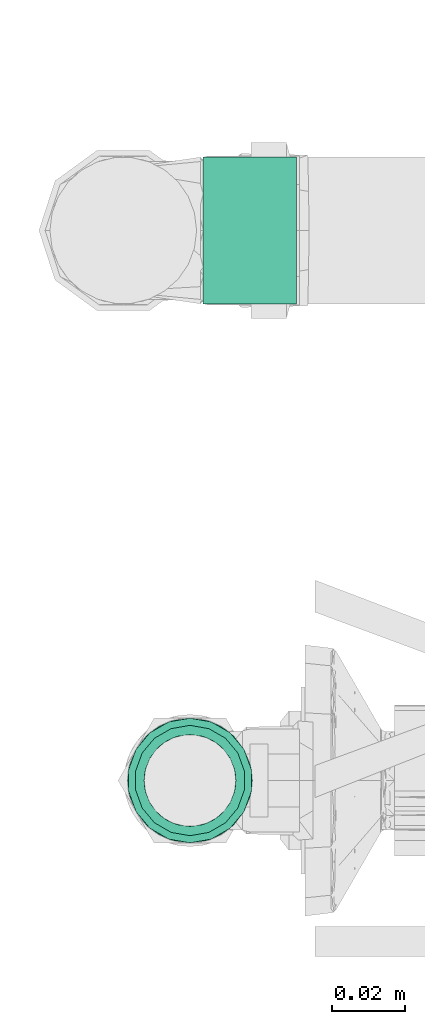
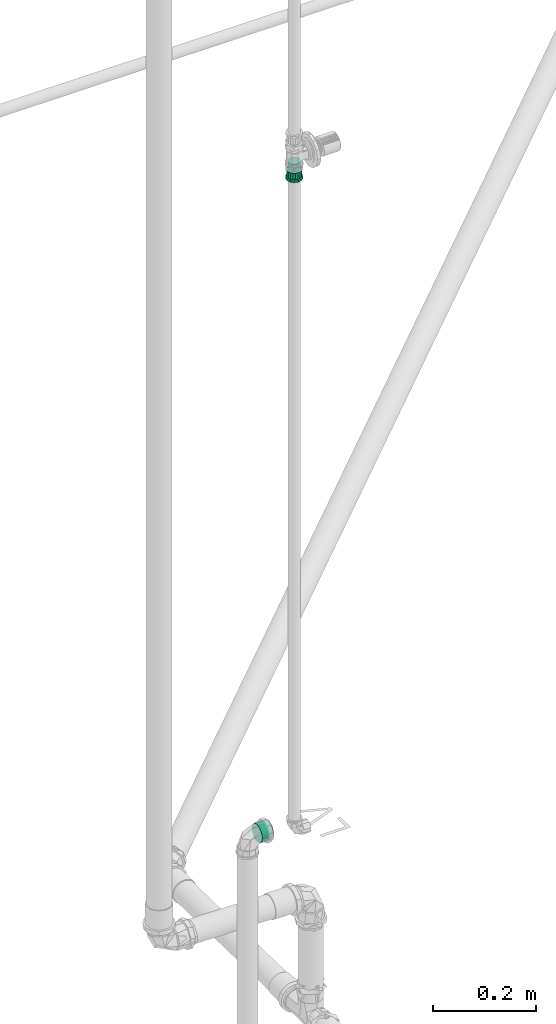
# One storey, part 394 of 589: 1 flow fitting, 1 flow segment.
"""IFC2X3 building model written with IfcOpenShell, lengths in millimetres."""

import ifcopenshell
import ifcopenshell.guid

model = None  # the IFC model being written
_history = None  # IfcOwnerHistory: only IFC2X3 demands one
_inside = {}  # id of a spatial element -> (the spatial element, [elements in it])
_under = {}  # id of a project, library or spatial element -> (it, [spatial elements below it])
_declared = {}  # id of a project -> (the project, [libraries it declares])
_typed = {}  # id of a type object -> (the type object, [elements of that type])
_made_of = {}  # id of a material, layer set ... -> (it, [elements and type objects made of it])


def new_model(schema):
    """Start an empty IFC model of exactly this schema.

    Asked for "IFC4X3", IfcOpenShell would pick the latest addendum, in which some entities
    have other attributes; the version numbers below select the first issue.
    IFC2X3 requires an IfcOwnerHistory on every rooted entity: one is made here for all.
    """
    global model, _history
    if schema == "IFC4X3":
        model = ifcopenshell.file(schema_version=(4, 3, 0, 0))
    else:
        model = ifcopenshell.file(schema=schema)
    _inside.clear()
    _under.clear()
    _declared.clear()
    _typed.clear()
    _made_of.clear()
    _history = None
    if model.schema == "IFC2X3":
        org = make("IfcOrganization", Name="unknown")
        user = make(
            "IfcPersonAndOrganization",
            ThePerson=make("IfcPerson", FamilyName="unknown"),
            TheOrganization=org,
        )
        app = make(
            "IfcApplication",
            ApplicationDeveloper=org,
            Version="unknown",
            ApplicationFullName="unknown",
            ApplicationIdentifier="unknown",
        )
        _history = make(
            "IfcOwnerHistory",
            OwningUser=user,
            OwningApplication=app,
            ChangeAction="ADDED",
            CreationDate=0,
        )
    return model


def make(cls, **values):
    """One entity of the class cls with the attributes given. An attribute that is None is left unset."""
    return model.create_entity(
        cls, **{name: value for name, value in values.items() if value is not None}
    )


def entity(cls, *values):
    """Any entity or typed value of the class cls, its attributes in the order of the schema. None: left unset."""
    e = model.create_entity(cls)
    for i, value in enumerate(values):
        if value is not None:
            e[i] = value
    return e


def rooted(cls, **values):
    """An entity with a GlobalId (a new one), such as an element, a storey or a relation."""
    return make(cls, GlobalId=ifcopenshell.guid.new(), OwnerHistory=_history, **values)


def si_unit(unit_type, name, prefix=None):
    """IfcSIUnit, for example si_unit("LENGTHUNIT", "METRE", prefix="MILLI")."""
    return make("IfcSIUnit", UnitType=unit_type, Prefix=prefix, Name=name)


def converted_unit(unit_type, name, factor, base, dimensions=None, offset=None):
    """IfcConversionBasedUnit, such as the inch: factor (a typed value) times the base unit."""
    return make(
        "IfcConversionBasedUnit"
        if offset is None
        else "IfcConversionBasedUnitWithOffset",
        ConversionOffset=offset,
        Dimensions=None
        if dimensions is None
        else entity("IfcDimensionalExponents", *dimensions),
        UnitType=unit_type,
        Name=name,
        ConversionFactor=make(
            "IfcMeasureWithUnit", ValueComponent=factor, UnitComponent=base
        ),
    )


def derived_unit(unit_type, elements):
    """IfcDerivedUnit: a product of units, each with its exponent."""
    return make(
        "IfcDerivedUnit",
        Elements=[
            make("IfcDerivedUnitElement", Unit=unit, Exponent=power)
            for unit, power in elements
        ],
        UnitType=unit_type,
    )


def assignment(units):
    """IfcUnitAssignment: the units of a project."""
    return None if units is None else make("IfcUnitAssignment", Units=units)


def point(xyz):
    """IfcCartesianPoint."""
    return None if xyz is None else make("IfcCartesianPoint", Coordinates=xyz)


def direction(xyz):
    """IfcDirection."""
    return None if xyz is None else make("IfcDirection", DirectionRatios=xyz)


def frame(location, z_axis=None, x_axis=None):
    """IfcAxis2Placement3D, a coordinate frame: its origin and axes. An axis left out is left unset."""
    return make(
        "IfcAxis2Placement3D",
        Location=point(location),
        Axis=direction(z_axis),
        RefDirection=direction(x_axis),
    )


def frame_2d(location, x_axis=None):
    """IfcAxis2Placement2D, a coordinate frame in the plane: its origin and x axis."""
    return make(
        "IfcAxis2Placement2D", Location=point(location), RefDirection=direction(x_axis)
    )


def origin():
    """The frame at (0, 0, 0) with its axes left unset."""
    return frame((0.0, 0.0, 0.0))


def place(relative_to, where):
    """IfcLocalPlacement: puts the frame where relative to a parent placement (None: the world)."""
    return make(
        "IfcLocalPlacement", PlacementRelTo=relative_to, RelativePlacement=where
    )


def context(
    kind, dimensions, precision=None, world=None, true_north=None, identifier=None
):
    """IfcGeometricRepresentationContext, for example the 3D "Model" context."""
    return make(
        "IfcGeometricRepresentationContext",
        ContextIdentifier=identifier,
        ContextType=kind,
        CoordinateSpaceDimension=dimensions,
        Precision=precision,
        WorldCoordinateSystem=world,
        TrueNorth=true_north,
    )


def subcontext(parent, identifier, kind, view, scale=None):
    """IfcGeometricRepresentationSubContext, for example "Body" below "Model"."""
    return make(
        "IfcGeometricRepresentationSubContext",
        ContextIdentifier=identifier,
        ContextType=kind,
        ParentContext=parent,
        TargetScale=scale,
        TargetView=view,
    )


def project(units=None, contexts=None):
    """IfcProject with its units and contexts."""
    return rooted(
        "IfcProject",
        Name="project",
        RepresentationContexts=contexts,
        UnitsInContext=assignment(units),
    )


def spatial(cls, under=None, at=None, **own):
    """A site, building, storey or space (cls), placed at a placement, below another one or the project."""
    s = rooted(cls, ObjectPlacement=at, **own)
    if under is not None:
        _under.setdefault(under.id(), (under, []))[1].append(s)
    return s


def profile(cls, at=None, kind="AREA", **sizes):
    """A parametric profile (cls). Its sizes go by their IFC names, for example OverallWidth=200.0."""
    return make(cls, ProfileType=kind, Position=at, **sizes)


def circle(**sizes):
    """IfcCircleProfileDef."""
    return profile("IfcCircleProfileDef", **sizes)


def extrude(swept, where, along, depth):
    """IfcExtrudedAreaSolid: the profile swept, set in the frame where, extruded along a direction by depth."""
    return make(
        "IfcExtrudedAreaSolid",
        SweptArea=swept,
        Position=where,
        ExtrudedDirection=direction(along),
        Depth=depth,
    )


def faces_of(points, faces, orient=None, outer=None):
    """IfcFace entities. A face is a list of loops; a loop is a list of indices into points, from 0.

    orient and outer hold one flag for each loop. By default every Orientation is true, the
    first loop of a face is its IfcFaceOuterBound and the others are IfcFaceBound.
    """
    made = []
    for i, loops in enumerate(faces):
        bounds = []
        for j, loop in enumerate(loops):
            is_outer = j == 0 if outer is None else outer[i][j]
            bounds.append(
                make(
                    "IfcFaceOuterBound" if is_outer else "IfcFaceBound",
                    Bound=make("IfcPolyLoop", Polygon=[points[k] for k in loop]),
                    Orientation=True if orient is None else orient[i][j],
                )
            )
        made.append(make("IfcFace", Bounds=bounds))
    return made


def faceted_brep(points, faces, orient=None, outer=None, voids=None):
    """IfcFacetedBrep: a solid bounded by flat faces; with voids (closed shells), ...WithVoids."""
    shared = [point(p) for p in points]
    hull = make("IfcClosedShell", CfsFaces=faces_of(shared, faces, orient, outer))
    if voids is None:
        return make("IfcFacetedBrep", Outer=hull)
    return make(
        "IfcFacetedBrepWithVoids",
        Outer=hull,
        Voids=[
            make(cls, CfsFaces=faces_of(shared, fs, o, b)) for cls, fs, o, b in voids
        ],
    )


def shape(context_of_items, identifier, shape_type, items):
    """IfcShapeRepresentation: the items that make up one representation, for example the "Body"."""
    return make(
        "IfcShapeRepresentation",
        ContextOfItems=context_of_items,
        RepresentationIdentifier=identifier,
        RepresentationType=shape_type,
        Items=items,
    )


def source(mapping_origin, context_of_items, identifier, shape_type, items):
    """IfcRepresentationMap: a shape defined once, which mapped items show again and again."""
    return make(
        "IfcRepresentationMap",
        MappingOrigin=mapping_origin,
        MappedRepresentation=shape(context_of_items, identifier, shape_type, items),
    )


def transform(
    local_origin,
    x_axis=None,
    y_axis=None,
    z_axis=None,
    scale=None,
    scale2=None,
    scale3=None,
    uniform=True,
):
    """IfcCartesianTransformationOperator3D, or its non-uniform kind. x_axis, y_axis, z_axis: its Axis1, 2, 3."""
    if uniform:
        return make(
            "IfcCartesianTransformationOperator3D",
            Axis1=direction(x_axis),
            Axis2=direction(y_axis),
            LocalOrigin=point(local_origin),
            Scale=scale,
            Axis3=direction(z_axis),
        )
    return make(
        "IfcCartesianTransformationOperator3DnonUniform",
        Axis1=direction(x_axis),
        Axis2=direction(y_axis),
        LocalOrigin=point(local_origin),
        Scale=scale,
        Axis3=direction(z_axis),
        Scale2=scale2,
        Scale3=scale3,
    )


def mapped(mapping_source, mapping_target):
    """IfcMappedItem: shows the shape of a source again, moved by a transform."""
    return make(
        "IfcMappedItem", MappingSource=mapping_source, MappingTarget=mapping_target
    )


def material(Name=None, Category=None):
    """IfcMaterial."""
    return make("IfcMaterial", Name=Name, Category=Category)


def made_of(thing, what):
    """Note that an element or type object is made of a material, layer set ...; save() writes the relation."""
    if what is not None:
        _made_of.setdefault(what.id(), (what, []))[1].append(thing)
    return thing


def type_object(cls, material=None, **own):
    """A type object (cls), such as IfcWallType, which elements share."""
    return made_of(rooted(cls, **own), material)


def type_shapes(of_type, sources):
    """Give a type object the sources (RepresentationMaps) that its elements show as mapped items."""
    of_type.RepresentationMaps = sources


def element(
    cls,
    number,
    at=None,
    inside=None,
    cuts=None,
    type_object=None,
    material=None,
    context=None,
    identifier="Body",
    shape_type=None,
    held_by="IfcProductDefinitionShape",
    body=None,
    shapes=None,
    **own,
):
    """One element of the class cls, such as IfcWall. Its Tag is "e" and its number.

    at: its placement. inside: the storey or other place that contains it. cuts: it is an
    opening in that element (IfcRelVoidsElement). A single representation is given by context,
    identifier, shape_type and body (its items); several are given by shapes. held_by: the class
    of the entity that holds the representations. save() writes the other relations.
    """
    e = rooted(cls, Tag="e%d" % number, ObjectPlacement=at, **own)
    if body is not None:
        shapes = [shape(context, identifier, shape_type, body)]
    if shapes is not None:
        e.Representation = make(held_by, Representations=shapes)
    if inside is not None:
        _inside.setdefault(inside.id(), (inside, []))[1].append(e)
    if cuts is not None:
        rooted(
            "IfcRelVoidsElement", RelatingBuildingElement=cuts, RelatedOpeningElement=e
        )
    if type_object is not None:
        _typed.setdefault(type_object.id(), (type_object, []))[1].append(e)
    return made_of(e, material)


def aggregate(whole, parts):
    """IfcRelAggregates: a whole, such as a stair, and the parts it consists of."""
    return rooted("IfcRelAggregates", RelatingObject=whole, RelatedObjects=parts)


def save(model, path):
    """Write the relations noted so far, then the file.

    IfcRelAggregates (storeys below a building ...), IfcRelContainedInSpatialStructure (elements
    in a storey), IfcRelDefinesByType, IfcRelAssociatesMaterial and IfcRelDeclares: one each for
    every whole, place, type object, material and project.
    """
    for whole, parts in _under.values():
        aggregate(whole, parts)
    for where, things in _inside.values():
        rooted(
            "IfcRelContainedInSpatialStructure",
            RelatedElements=things,
            RelatingStructure=where,
        )
    for kind, things in _typed.values():
        rooted("IfcRelDefinesByType", RelatedObjects=things, RelatingType=kind)
    for what, things in _made_of.values():
        rooted("IfcRelAssociatesMaterial", RelatedObjects=things, RelatingMaterial=what)
    for by, libraries in _declared.values():
        rooted("IfcRelDeclares", RelatingContext=by, RelatedDefinitions=libraries)
    model.write(path)


model = new_model("IFC2X3")

# Units and contexts
model_context = context("Model", 3, precision=0.01, world=origin(), true_north=direction((6.123031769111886e-17, 1.0)))
body_context = subcontext(model_context, "Body", "Model", "MODEL_VIEW")
ifc_project = project(units=[si_unit("LENGTHUNIT", "METRE", prefix="MILLI"), si_unit("AREAUNIT", "SQUARE_METRE"), si_unit("VOLUMEUNIT", "CUBIC_METRE"), converted_unit("PLANEANGLEUNIT", "DEGREE", entity("IfcRatioMeasure", 0.017453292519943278), si_unit("PLANEANGLEUNIT", "RADIAN"), dimensions=[0, 0, 0, 0, 0, 0, 0]), si_unit("MASSUNIT", "GRAM", prefix="KILO"), derived_unit("MASSDENSITYUNIT", [(si_unit("MASSUNIT", "GRAM", prefix="KILO"), 1), (si_unit("LENGTHUNIT", "METRE"), -3)]), derived_unit("IONCONCENTRATIONUNIT", [(si_unit("MASSUNIT", "GRAM", prefix="KILO"), 1), (si_unit("LENGTHUNIT", "METRE"), -3)]), derived_unit("MOMENTOFINERTIAUNIT", [(si_unit("LENGTHUNIT", "METRE"), 4)]), si_unit("TIMEUNIT", "SECOND"), si_unit("FREQUENCYUNIT", "HERTZ"), si_unit("THERMODYNAMICTEMPERATUREUNIT", "DEGREE_CELSIUS"), derived_unit("THERMALTRANSMITTANCEUNIT", [(si_unit("MASSUNIT", "GRAM", prefix="KILO"), 1), (si_unit("THERMODYNAMICTEMPERATUREUNIT", "KELVIN"), -1), (si_unit("TIMEUNIT", "SECOND"), -3)]), derived_unit("THERMALCONDUCTANCEUNIT", [(si_unit("MASSUNIT", "GRAM", prefix="KILO"), 1), (si_unit("THERMODYNAMICTEMPERATUREUNIT", "KELVIN"), -1), (si_unit("TIMEUNIT", "SECOND"), -3), (si_unit("LENGTHUNIT", "METRE"), 1)]), derived_unit("VOLUMETRICFLOWRATEUNIT", [(si_unit("LENGTHUNIT", "METRE"), 3), (si_unit("TIMEUNIT", "SECOND"), -1)]), derived_unit("MASSFLOWRATEUNIT", [(si_unit("MASSUNIT", "GRAM", prefix="KILO"), 1), (si_unit("TIMEUNIT", "SECOND"), -1)]), derived_unit("ROTATIONALFREQUENCYUNIT", [(si_unit("TIMEUNIT", "SECOND"), -1)]), si_unit("ELECTRICCURRENTUNIT", "AMPERE"), si_unit("ELECTRICVOLTAGEUNIT", "VOLT"), si_unit("POWERUNIT", "WATT"), si_unit("FORCEUNIT", "NEWTON", prefix="KILO"), si_unit("ILLUMINANCEUNIT", "LUX"), si_unit("LUMINOUSFLUXUNIT", "LUMEN"), si_unit("LUMINOUSINTENSITYUNIT", "CANDELA"), derived_unit("USERDEFINED", [(si_unit("MASSUNIT", "GRAM", prefix="KILO"), -1), (si_unit("LENGTHUNIT", "METRE"), -2), (si_unit("TIMEUNIT", "SECOND"), 3), (si_unit("LUMINOUSFLUXUNIT", "LUMEN"), 1)]), derived_unit("USERDEFINED", [(si_unit("MASSUNIT", "GRAM", prefix="KILO"), 1), (si_unit("TIMEUNIT", "SECOND"), -3), (si_unit("LENGTHUNIT", "METRE"), 3), (si_unit("ELECTRICCURRENTUNIT", "AMPERE"), -2)]), derived_unit("SOUNDPOWERUNIT", [(si_unit("MASSUNIT", "GRAM", prefix="KILO"), 1), (si_unit("TIMEUNIT", "SECOND"), -3), (si_unit("LENGTHUNIT", "METRE"), 2)]), derived_unit("SOUNDPRESSUREUNIT", [(si_unit("MASSUNIT", "GRAM", prefix="KILO"), 1), (si_unit("LENGTHUNIT", "METRE"), -1), (si_unit("TIMEUNIT", "SECOND"), -2)]), derived_unit("LINEARVELOCITYUNIT", [(si_unit("LENGTHUNIT", "METRE"), 1), (si_unit("TIMEUNIT", "SECOND"), -1)]), si_unit("PRESSUREUNIT", "PASCAL"), derived_unit("USERDEFINED", [(si_unit("MASSUNIT", "GRAM", prefix="KILO"), 1), (si_unit("LENGTHUNIT", "METRE"), -2), (si_unit("TIMEUNIT", "SECOND"), -2)]), derived_unit("LINEARFORCEUNIT", [(si_unit("MASSUNIT", "GRAM", prefix="KILO"), 1), (si_unit("TIMEUNIT", "SECOND"), -2)]), derived_unit("PLANARFORCEUNIT", [(si_unit("MASSUNIT", "GRAM", prefix="KILO"), 1), (si_unit("LENGTHUNIT", "METRE"), -1), (si_unit("TIMEUNIT", "SECOND"), -2)]), derived_unit("SPECIFICHEATCAPACITYUNIT", [(si_unit("THERMODYNAMICTEMPERATUREUNIT", "KELVIN"), -1), (si_unit("LENGTHUNIT", "METRE"), 2), (si_unit("TIMEUNIT", "SECOND"), -2)]), derived_unit("HEATINGVALUEUNIT", [(si_unit("LENGTHUNIT", "METRE"), 2), (si_unit("TIMEUNIT", "SECOND"), -2)]), derived_unit("VAPORPERMEABILITYUNIT", [(si_unit("LENGTHUNIT", "METRE"), -1), (si_unit("TIMEUNIT", "SECOND"), 1)]), derived_unit("DYNAMICVISCOSITYUNIT", [(si_unit("MASSUNIT", "GRAM", prefix="KILO"), 1), (si_unit("TIMEUNIT", "SECOND"), -1), (si_unit("LENGTHUNIT", "METRE"), -1)]), derived_unit("THERMALEXPANSIONCOEFFICIENTUNIT", [(si_unit("THERMODYNAMICTEMPERATUREUNIT", "KELVIN"), -1)]), derived_unit("MODULUSOFELASTICITYUNIT", [(si_unit("MASSUNIT", "GRAM", prefix="KILO"), 1), (si_unit("LENGTHUNIT", "METRE"), -1), (si_unit("TIMEUNIT", "SECOND"), -2)]), derived_unit("ISOTHERMALMOISTURECAPACITYUNIT", [(si_unit("LENGTHUNIT", "METRE"), 3), (si_unit("MASSUNIT", "GRAM", prefix="KILO"), -1)]), derived_unit("MOISTUREDIFFUSIVITYUNIT", [(si_unit("TIMEUNIT", "SECOND"), -1), (si_unit("LENGTHUNIT", "METRE"), 2)])], contexts=[model_context])

# Site, building, storey
site_placement = place(None, origin())
site = spatial("IfcSite", under=ifc_project, at=site_placement, Name="Default", CompositionType="ELEMENT")
building_placement = place(site_placement, origin())
building = spatial("IfcBuilding", under=site, at=building_placement, CompositionType="ELEMENT")
storey_placement = place(building_placement, frame((0.0, 0.0, 100.0)))
storey = spatial("IfcBuildingStorey", under=building, at=storey_placement, Name="TÉRREO", CompositionType="ELEMENT", Elevation=100.0)

# Flow segment
pipe_segment_type = type_object("IfcPipeSegmentType", Name="Tipos de tubos:PVC Esgoto Série Normal", PredefinedType="NOTDEFINED")
flow_segment_placement = place(storey_placement, origin())
element("IfcFlowSegment", 1, at=flow_segment_placement, inside=storey, type_object=pipe_segment_type, Name="Tipos de tubos:PVC Esgoto Série Normal", ObjectType="Tipos de tubos:PVC Esgoto Série Normal", context=body_context, shape_type="SweptSolid", body=[
    extrude(circle(Radius=20.0, at=frame_2d((1.353583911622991e-13, 0.0), x_axis=(1.0, 0.0))), frame((4633.153225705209, -799.8765311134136, 500.0), z_axis=(1.0, 0.0, 0.0), x_axis=(0.0, -1.0, 0.0)), (0.0, 0.0, 1.0), 25.39999304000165),
])

# Flow fitting
ifc_material = material(Name="PVC Marrom")
pipe_fitting_type = type_object("IfcPipeFittingType", Name="PVC Marrom Soldável_Adaptador Curto com Bolsa e Rosca Aninhado_Rodrigo MEP:Adaptador", PredefinedType="NOTDEFINED", material=ifc_material)
shared_shape = source(origin(), body_context, "Body", "Brep", [
    faceted_brep([(0.0, -8.500000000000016, -14.72243186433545), (0.0, -12.020815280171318, -12.0208152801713), (0.0, -6.2499999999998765, -10.825317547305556), (0.0, -3.2352380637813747, -12.07407282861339), (0.0, -4.399923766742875, -16.420739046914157), (0.0, -8.838834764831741, -8.83883476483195), (0.0, -14.722431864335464, -8.499999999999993), (0.0, -10.825317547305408, -6.250000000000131), (0.0, -12.074072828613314, -3.2352380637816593), (0.0, -16.42073904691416, -4.399923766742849), (0.0, -12.5, 0.0), (0.0, -17.0, 0.0), (0.0, -12.074072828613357, 3.2352380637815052), (0.0, -16.420739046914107, 4.399923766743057), (0.0, -10.825317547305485, 6.2499999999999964), (0.0, -14.722431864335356, 8.500000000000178), (0.0, -8.83883476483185, 8.838834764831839), (0.0, -12.020815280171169, 12.020815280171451), (0.0, -6.250000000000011, 10.82531754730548), (0.0, -8.499999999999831, 14.722431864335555), (0.0, -3.2352380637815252, 12.07407282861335), (0.0, -4.39992376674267, 16.42073904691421), (0.0, 0.0, 12.5), (0.0, 0.0, 17.0), (0.0, 3.2352380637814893, 12.07407282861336), (0.0, 4.399923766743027, 16.420739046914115), (0.0, 6.24999999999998, 10.825317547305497), (0.0, 8.500000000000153, 14.722431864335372), (0.0, 8.838834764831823, 8.838834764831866), (0.0, 12.020815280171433, 12.020815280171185), (0.0, 10.82531754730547, 6.250000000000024), (0.0, 14.722431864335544, 8.499999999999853), (0.0, 16.42073904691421, 4.399923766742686), (0.0, 12.074072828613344, 3.2352380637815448), (0.0, 17.0, 0.0), (0.0, 12.5, 0.0), (0.0, 16.42073904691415, -4.399923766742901), (0.0, 12.074072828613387, -3.235238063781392), (0.0, 14.722431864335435, -8.500000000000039), (0.0, 10.82531754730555, -6.249999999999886), (0.0, 12.02081528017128, -12.020815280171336), (0.0, 8.838834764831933, -8.838834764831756), (0.0, 8.499999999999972, -14.722431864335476), (0.0, 6.250000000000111, -10.825317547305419), (0.0, 4.399923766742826, -16.42073904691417), (0.0, 3.235238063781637, -12.074072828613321), (0.0, 0.0, -17.0), (0.0, 0.0, -12.5), (4.0, 15.974612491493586, 5.8147876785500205), (4.0, 16.487306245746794, 2.9073938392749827), (4.0, 10.760457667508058, 12.825628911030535), (4.0, 13.022146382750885, 10.928115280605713), (4.0, 14.498379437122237, 8.371451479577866), (4.0, 5.724460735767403, 15.732601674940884), (4.0, 2.9501525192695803, 16.742060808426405), (4.0, 16.599682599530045, 2.2701277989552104), (4.0, 17.0, 0.0), (4.0, 8.498768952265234, 14.723142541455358), (4.0, -8.502461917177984, 14.721010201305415), (4.0, -5.728407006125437, 15.731165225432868), (4.0, -2.954352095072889, 16.74132024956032), (4.0, -13.02488724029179, 10.924848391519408), (4.0, -10.763674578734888, 12.82292929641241), (4.0, -17.0, 0.0), (4.0, -15.976070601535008, 5.8107803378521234), (4.0, -14.5004789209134, 8.367814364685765), (4.0, -0.002099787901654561, 16.741690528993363), (4.0, -15.97607060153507, -5.810780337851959), (4.0, -10.763674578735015, -12.822929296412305), (4.0, -13.024887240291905, -10.92484839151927), (4.0, -14.500478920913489, -8.367814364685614), (4.0, -5.728407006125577, -15.731165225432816), (4.0, -2.9543520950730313, -16.741320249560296), (4.0, -8.502461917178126, -14.721010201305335), (4.0, 16.487306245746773, -2.907393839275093), (4.0, 8.498768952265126, -14.72314254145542), (4.0, 5.724460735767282, -15.732601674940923), (4.0, 2.950152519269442, -16.74206080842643), (4.0, 13.022146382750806, -10.928115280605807), (4.0, 10.760457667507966, -12.825628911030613), (4.0, 15.974612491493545, -5.814787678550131), (4.0, 14.498379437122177, -8.371451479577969), (4.0, -0.002099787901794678, -16.741690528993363), (4.0, 16.599682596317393, -2.270127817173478), (20.85, 14.535973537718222, 2.9149513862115), (20.85, 14.596115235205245, 2.5738986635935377), (20.850000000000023, 15.05, 0.0), (5.900000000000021, 15.05, 0.0), (5.900000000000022, 14.59611523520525, 2.5738986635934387), (5.900000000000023, 14.142230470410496, 5.147797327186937), (20.84999999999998, 14.142230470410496, 5.147797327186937), (20.849999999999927, 9.52616987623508, 11.354453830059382), (20.84999999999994, 11.528429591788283, 9.674596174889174), (5.900000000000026, 11.528429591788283, 9.674596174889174), (5.900000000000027, 9.526169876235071, 11.354453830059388), (5.900000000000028, 7.523910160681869, 13.034311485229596), (20.84999999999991, 7.523910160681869, 13.034311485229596), (20.849999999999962, 12.835330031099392, 7.411196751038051), (5.900000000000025, 12.83533003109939, 7.411196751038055), (20.849999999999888, 2.6117526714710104, 14.821647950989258), (20.849999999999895, 5.067831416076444, 13.927979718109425), (5.900000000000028, 5.067831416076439, 13.927979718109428), (5.900000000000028, 2.6117526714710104, 14.821647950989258), (20.849999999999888, -2.61547053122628, 14.820992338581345), (20.849999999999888, -0.0018589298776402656, 14.821320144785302), (5.900000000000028, -0.0018589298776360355, 14.8213201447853), (5.900000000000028, -2.615470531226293, 14.820992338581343), (20.849999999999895, -5.0713250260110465, 13.926708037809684), (5.900000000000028, -5.071325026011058, 13.92670803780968), (5.900000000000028, -7.527179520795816, 13.032423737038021), (20.849999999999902, -7.527179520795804, 13.032423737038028), (5.900000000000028, -9.52901778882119, 11.35206387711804), (5.900000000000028, -11.530856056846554, 9.671704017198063), (20.84999999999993, -11.530856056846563, 9.671704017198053), (20.849999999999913, -9.529017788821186, 11.352063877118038), (20.849999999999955, -12.837188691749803, 7.407976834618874), (5.900000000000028, -12.837188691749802, 7.407976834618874), (5.900000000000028, -14.143521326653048, 5.144249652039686), (20.849999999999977, -14.143521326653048, 5.144249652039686), (5.900000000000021, -15.05, 0.0), (20.850000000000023, -15.05, 0.0), (20.85000000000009, -14.143521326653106, -5.144249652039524), (5.900000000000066, -14.143521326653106, -5.144249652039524), (20.850000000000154, -7.527179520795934, -13.032423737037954), (20.85000000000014, -9.529017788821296, -11.352063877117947), (20.85000000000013, -11.530856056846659, -9.67170401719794), (5.900000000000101, -11.530856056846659, -9.67170401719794), (5.900000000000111, -9.529017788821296, -11.352063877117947), (5.900000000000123, -7.527179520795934, -13.032423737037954), (5.90000000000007, 12.835330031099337, -7.411196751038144), (5.900000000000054, 14.142230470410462, -5.147797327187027), (20.850000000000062, 14.142230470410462, -5.147797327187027), (20.850000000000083, 12.835330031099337, -7.411196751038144), (20.850000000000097, 11.528429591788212, -9.67459617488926), (5.900000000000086, 11.528429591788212, -9.67459617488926), (5.90000000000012, 5.067831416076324, -13.927979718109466), (5.900000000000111, 7.523910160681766, -13.034311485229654), (20.850000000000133, 7.523910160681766, -13.034311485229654), (20.85000000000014, 5.067831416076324, -13.927979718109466), (20.850000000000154, 2.6117526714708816, -14.821647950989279), (5.900000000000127, 2.6117526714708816, -14.821647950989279), (20.850000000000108, -12.837188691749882, -7.40797683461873), (5.900000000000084, -12.837188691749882, -7.407976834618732), (20.85000000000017, -2.6154705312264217, -14.82099233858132), (20.850000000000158, -5.071325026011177, -13.926708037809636), (5.900000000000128, -5.071325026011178, -13.926708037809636), (5.900000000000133, -2.6154705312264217, -14.82099233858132), (5.900000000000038, 14.596115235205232, -2.573898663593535), (20.85000000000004, 14.667751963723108, -2.1676596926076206), (20.850000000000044, 14.535973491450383, -2.91495164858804), (5.900000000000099, 9.526169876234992, -11.354453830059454), (20.850000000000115, 9.52616987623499, -11.354453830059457), (20.850000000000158, -0.0018589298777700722, -14.821320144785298), (5.900000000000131, -0.0018589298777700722, -14.821320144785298), (40.29999999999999, 0.0, -12.5), (40.29999999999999, 3.2352380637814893, -12.07407282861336), (40.29999999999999, 6.24999999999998, -10.825317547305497), (40.29999999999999, 8.838834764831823, -8.838834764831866), (40.29999999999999, 10.825317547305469, -6.2500000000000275), (40.29999999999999, 12.074072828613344, -3.2352380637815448), (40.29999999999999, 12.5, 0.0), (40.29999999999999, 12.074072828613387, 3.235238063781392), (40.29999999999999, 10.825317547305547, 6.249999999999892), (40.29999999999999, 8.838834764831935, 8.838834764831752), (40.29999999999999, 6.250000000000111, 10.825317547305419), (40.29999999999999, 3.235238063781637, 12.074072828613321), (40.29999999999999, 0.0, 12.5), (40.29999999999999, -3.2352380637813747, 12.07407282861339), (40.29999999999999, -6.2499999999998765, 10.825317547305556), (40.29999999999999, -8.838834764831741, 8.83883476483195), (40.29999999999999, -10.825317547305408, 6.250000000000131), (40.29999999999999, -12.074072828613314, 3.2352380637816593), (40.29999999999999, -12.5, 0.0), (40.29999999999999, -12.074072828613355, -3.2352380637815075), (40.29999999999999, -10.825317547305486, -6.249999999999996), (40.29999999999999, -8.83883476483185, -8.838834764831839), (40.29999999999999, -6.250000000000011, -10.82531754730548), (40.29999999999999, -3.2352380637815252, -12.07407282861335), (23.749999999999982, 12.5, 0.0), (23.74999999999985, 9.57510763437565, 8.035378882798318), (23.749999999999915, 11.746038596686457, 4.275579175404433), (23.749999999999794, 6.249094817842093, 10.825840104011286), (23.74999999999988, 10.66057311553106, 6.155479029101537), (23.74999999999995, 12.182518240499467, 1.8003818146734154), (23.74999999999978, 4.209162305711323, 11.56808946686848), (23.74999999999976, 2.1692297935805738, 12.310338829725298), (23.74999999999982, 7.912101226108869, 9.430609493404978), (23.749999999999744, -2.1723177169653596, 12.309794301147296), (23.749999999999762, -6.251810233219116, 10.824272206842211), (23.749999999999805, -9.577122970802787, 8.032976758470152), (23.749999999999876, -11.747110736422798, 4.272632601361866), (23.749999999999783, -7.9144666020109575, 9.428624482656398), (23.74999999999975, -4.212063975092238, 11.56703325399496), (23.749999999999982, -12.5, 0.0), (23.749999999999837, -10.662116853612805, 6.15280467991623), (23.74999999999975, -0.0015439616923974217, 12.31006656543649), (23.750000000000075, -9.577122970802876, -8.032976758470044), (23.75000000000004, -11.747110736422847, -4.272632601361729), (23.750000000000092, -6.2518102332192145, -10.824272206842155), (23.750000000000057, -10.662116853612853, -6.152804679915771), (23.7500000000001, -4.212063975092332, -11.56703325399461), (23.7500000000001, -2.1723177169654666, -12.309794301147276), (23.75000000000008, -7.914466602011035, -9.428624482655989), (23.750000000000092, 2.1692297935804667, -12.310338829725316), (23.750000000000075, 6.249094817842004, -10.82584010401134), (23.750000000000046, 9.575107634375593, -8.035378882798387), (23.750000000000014, 11.74603859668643, -4.275579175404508), (23.750000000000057, 7.912101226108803, -9.430609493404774), (23.75000000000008, 4.209162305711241, -11.56808946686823), (23.749999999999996, 12.123019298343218, -2.1377895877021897), (23.750000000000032, 10.660573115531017, -6.155479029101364), (23.750000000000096, -0.0015439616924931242, -12.310066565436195), (5.900000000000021, 12.07407282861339, -3.2352380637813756), (20.850000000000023, 12.07407282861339, -3.2352380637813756), (20.850000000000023, 12.5, 0.0), (5.900000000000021, 12.5, 0.0), (4.0, 12.5, 0.0), (4.0, 12.07407282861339, -3.2352380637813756), (5.900000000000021, 10.825317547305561, -6.249999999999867), (20.850000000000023, 10.825317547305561, -6.249999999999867), (4.0, 10.825317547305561, -6.249999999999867), (20.850000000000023, 6.250000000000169, -10.825317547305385), (20.850000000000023, 8.838834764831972, -8.838834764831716), (5.900000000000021, 8.838834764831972, -8.838834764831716), (4.0, 8.838834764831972, -8.838834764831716), (4.0, 6.250000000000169, -10.825317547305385), (5.900000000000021, 6.250000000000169, -10.825317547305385), (20.850000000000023, 3.235238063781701, -12.074072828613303), (4.0, 3.235238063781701, -12.074072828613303), (5.900000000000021, 3.235238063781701, -12.074072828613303), (20.850000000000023, 0.0, -12.5), (4.0, 0.0, -12.5), (5.900000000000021, 0.0, -12.5), (5.900000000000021, -3.2352380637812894, -12.074072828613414), (20.850000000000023, -3.2352380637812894, -12.074072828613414), (4.0, -3.2352380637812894, -12.074072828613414), (5.900000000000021, -6.24999999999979, -10.825317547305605), (20.850000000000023, -6.24999999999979, -10.825317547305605), (4.0, -6.24999999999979, -10.825317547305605), (20.850000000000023, -10.825317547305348, -6.250000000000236), (20.850000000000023, -8.838834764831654, -8.838834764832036), (5.900000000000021, -8.838834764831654, -8.838834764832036), (4.0, -8.838834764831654, -8.838834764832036), (4.0, -10.825317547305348, -6.250000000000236), (5.900000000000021, -10.825317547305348, -6.250000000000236), (20.850000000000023, -12.07407282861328, -3.2352380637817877), (4.0, -12.07407282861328, -3.2352380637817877), (5.900000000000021, -12.07407282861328, -3.2352380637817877), (20.850000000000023, -12.5, 0.0), (4.0, -12.5, 0.0), (5.900000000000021, -12.5, 0.0), (5.900000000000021, -12.074072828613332, 3.2352380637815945), (20.850000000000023, -12.074072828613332, 3.2352380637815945), (4.0, -12.074072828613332, 3.2352380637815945), (5.900000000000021, -10.82531754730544, 6.250000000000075), (20.850000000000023, -10.82531754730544, 6.250000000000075), (4.0, -10.82531754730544, 6.250000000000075), (20.850000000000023, -6.249999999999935, 10.825317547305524), (20.850000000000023, -8.838834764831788, 8.838834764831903), (5.900000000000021, -8.838834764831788, 8.838834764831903), (4.0, -8.838834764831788, 8.838834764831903), (4.0, -6.249999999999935, 10.825317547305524), (5.900000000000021, -6.249999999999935, 10.825317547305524), (20.850000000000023, -3.2352380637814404, 12.074072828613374), (4.0, -3.2352380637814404, 12.074072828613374), (5.900000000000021, -3.2352380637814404, 12.074072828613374), (20.850000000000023, 0.0, 12.5), (4.0, 0.0, 12.5), (5.900000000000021, 0.0, 12.5), (5.900000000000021, 3.2352380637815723, 12.074072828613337), (20.850000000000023, 3.2352380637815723, 12.074072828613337), (4.0, 3.2352380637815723, 12.074072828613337), (5.900000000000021, 6.250000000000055, 10.825317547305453), (20.850000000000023, 6.250000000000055, 10.825317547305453), (4.0, 6.250000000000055, 10.825317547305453), (20.850000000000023, 10.825317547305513, 6.249999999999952), (20.850000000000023, 8.838834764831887, 8.838834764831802), (5.900000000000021, 8.838834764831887, 8.838834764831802), (4.0, 8.838834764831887, 8.838834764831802), (4.0, 10.825317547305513, 6.249999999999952), (5.900000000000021, 10.825317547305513, 6.249999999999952), (20.850000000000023, 12.07407282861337, 3.2352380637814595), (4.0, 12.07407282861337, 3.2352380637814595), (5.900000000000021, 12.07407282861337, 3.2352380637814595)], [[[0, 1, 2]], [[0, 2, 3]], [[3, 4, 0]], [[2, 1, 5]], [[6, 5, 1]], [[7, 5, 6]], [[8, 7, 6]], [[8, 6, 9]], [[8, 9, 10]], [[10, 9, 11]], [[12, 10, 11]], [[12, 11, 13]], [[14, 12, 13]], [[14, 13, 15]], [[16, 14, 15]], [[15, 17, 16]], [[17, 18, 16]], [[18, 17, 19]], [[18, 19, 20]], [[21, 20, 19]], [[20, 21, 22]], [[22, 21, 23]], [[23, 24, 22]], [[24, 23, 25]], [[24, 25, 26]], [[27, 26, 25]], [[27, 28, 26]], [[27, 29, 28]], [[30, 28, 29]], [[31, 30, 29]], [[32, 30, 31]], [[33, 30, 32]], [[33, 32, 34]], [[34, 35, 33]], [[36, 35, 34]], [[36, 37, 35]], [[37, 36, 38]], [[39, 37, 38]], [[39, 38, 40]], [[39, 40, 41]], [[40, 42, 41]], [[41, 42, 43]], [[43, 42, 44]], [[44, 45, 43]], [[46, 45, 44]], [[4, 47, 46]], [[45, 46, 47]], [[4, 3, 47]], [[32, 48, 49]], [[50, 51, 29]], [[52, 48, 31, 51]], [[53, 25, 54]], [[48, 32, 31]], [[34, 49, 55, 56]], [[27, 57, 50]], [[29, 27, 50]], [[29, 51, 31]], [[19, 58, 59]], [[21, 19, 59]], [[53, 57, 27]], [[25, 53, 27]], [[54, 25, 23]], [[32, 49, 34]], [[59, 60, 21]], [[61, 62, 17]], [[63, 64, 13]], [[65, 61, 15, 64]], [[11, 63, 13]], [[17, 62, 19]], [[66, 54, 23, 60]], [[21, 60, 23]], [[61, 17, 15]], [[19, 62, 58]], [[13, 64, 15]], [[67, 63, 9]], [[68, 69, 1]], [[70, 67, 6, 69]], [[71, 4, 72]], [[67, 9, 6]], [[63, 11, 9]], [[4, 71, 0]], [[0, 73, 68]], [[1, 69, 6]], [[36, 34, 74]], [[42, 75, 76]], [[71, 73, 0]], [[44, 42, 76]], [[72, 4, 46]], [[1, 0, 68]], [[76, 77, 44]], [[78, 79, 40]], [[74, 80, 36]], [[81, 78, 38, 80]], [[36, 80, 38]], [[40, 79, 42]], [[82, 72, 46, 77]], [[44, 77, 46]], [[78, 40, 38]], [[42, 79, 75]], [[34, 56, 83, 74]], [[84, 85, 86, 87, 88, 89, 90]], [[91, 92, 93, 94, 95, 96]], [[92, 97, 90, 89, 98, 93]], [[99, 100, 96, 95, 101, 102]], [[103, 104, 99, 102, 105, 106]], [[107, 103, 106, 108, 109, 110]], [[111, 112, 113, 114, 110, 109]], [[115, 113, 112, 116, 117, 118]], [[117, 119, 120, 118]], [[121, 120, 119, 122]], [[123, 124, 125, 126, 127, 128]], [[129, 130, 131, 132, 133, 134]], [[135, 136, 137, 138, 139, 140]], [[125, 141, 121, 122, 142, 126]], [[143, 144, 123, 128, 145, 146]], [[131, 130, 147, 87, 86, 148, 149]], [[150, 134, 133, 151, 137, 136]], [[139, 152, 143, 146, 153, 140]], [[154, 155, 156, 157, 158, 159, 160, 161, 162, 163, 164, 165, 166, 167, 168, 169, 170, 171, 172, 173, 174, 175, 176, 177]], [[161, 160, 178]], [[163, 162, 179]], [[180, 162, 161]], [[181, 164, 163]], [[162, 180, 182, 179]], [[161, 178, 183, 180]], [[165, 181, 184, 185]], [[163, 179, 186, 181]], [[166, 165, 185]], [[165, 164, 181]], [[166, 187, 167]], [[167, 188, 168]], [[170, 169, 189]], [[188, 169, 168]], [[171, 170, 190]], [[169, 188, 191, 189]], [[167, 187, 192, 188]], [[190, 193, 171]], [[170, 189, 194, 190]], [[193, 172, 171]], [[166, 185, 195, 187]], [[173, 172, 193]], [[175, 174, 196]], [[197, 174, 173]], [[198, 176, 175]], [[174, 197, 199, 196]], [[173, 193, 197]], [[177, 198, 200, 201]], [[175, 196, 202, 198]], [[154, 177, 201]], [[177, 176, 198]], [[154, 203, 155]], [[155, 204, 156]], [[158, 157, 205]], [[204, 157, 156]], [[159, 158, 206]], [[157, 204, 207, 205]], [[155, 203, 208, 204]], [[159, 206, 209, 178]], [[158, 205, 210, 206]], [[178, 160, 159]], [[154, 201, 211, 203]], [[212, 213, 214, 215, 216, 35, 37, 217]], [[218, 219, 213, 212, 217, 37, 39, 220]], [[221, 222, 223, 224, 41, 43, 225, 226]], [[218, 220, 39, 41, 224, 223, 222, 219]], [[227, 221, 226, 225, 43, 45, 228, 229]], [[230, 227, 229, 228, 45, 47, 231, 232]], [[233, 234, 230, 232, 231, 47, 3, 235]], [[236, 237, 234, 233, 235, 3, 2, 238]], [[239, 240, 241, 242, 5, 7, 243, 244]], [[236, 238, 2, 5, 242, 241, 240, 237]], [[245, 239, 244, 243, 7, 8, 246, 247]], [[248, 245, 247, 246, 8, 10, 249, 250]], [[251, 252, 248, 250, 249, 10, 12, 253]], [[254, 255, 252, 251, 253, 12, 14, 256]], [[257, 258, 259, 260, 16, 18, 261, 262]], [[254, 256, 14, 16, 260, 259, 258, 255]], [[263, 257, 262, 261, 18, 20, 264, 265]], [[266, 263, 265, 264, 20, 22, 267, 268]], [[269, 270, 266, 268, 267, 22, 24, 271]], [[272, 273, 270, 269, 271, 24, 26, 274]], [[275, 276, 277, 278, 28, 30, 279, 280]], [[272, 274, 26, 28, 278, 277, 276, 273]], [[281, 275, 280, 279, 30, 33, 282, 283]], [[214, 281, 283, 282, 33, 35, 216, 215]], [[63, 67, 122, 119]], [[145, 128, 73, 71, 72, 146]], [[68, 73, 128, 127, 126, 69]], [[126, 142, 122, 67, 70, 69]], [[76, 75, 136, 135, 140, 77]], [[81, 80, 130, 129, 134, 78]], [[147, 130, 80, 74, 83, 56, 87]], [[140, 153, 146, 72, 82, 77]], [[134, 150, 136, 75, 79, 78]], [[89, 88, 87, 56, 55, 49, 48]], [[98, 89, 48, 52, 51, 93]], [[94, 93, 51, 50, 57, 95]], [[57, 53, 54, 102, 101, 95]], [[66, 60, 106, 105, 102, 54]], [[58, 109, 108, 106, 60, 59]], [[63, 119, 117, 64]], [[61, 65, 64, 117, 116, 112]], [[58, 62, 61, 112, 111, 109]], [[227, 230, 234, 237, 240, 239, 245, 248, 252, 255, 258, 257, 263, 266, 270, 273, 276, 275, 281, 214, 213, 219, 222, 221]], [[180, 183, 178, 86, 85, 84, 90]], [[100, 99, 185, 184, 181, 96]], [[181, 186, 179, 92, 91, 96]], [[179, 182, 180, 90, 97, 92]], [[104, 103, 187, 195, 185, 99]], [[115, 118, 190, 194, 189, 113]], [[107, 110, 188, 192, 187, 103]], [[118, 120, 193, 190]], [[189, 191, 188, 110, 114, 113]], [[120, 121, 197, 193]], [[200, 198, 123, 144, 143, 201]], [[124, 123, 198, 202, 196, 125]], [[196, 199, 197, 121, 141, 125]], [[138, 137, 204, 208, 203, 139]], [[132, 131, 206, 210, 205, 133]], [[209, 206, 131, 149, 148, 86, 178]], [[203, 211, 201, 143, 152, 139]], [[205, 207, 204, 137, 151, 133]]]),
])
type_shapes(pipe_fitting_type, [shared_shape])
flow_fitting_placement = place(storey_placement, frame((4629.553225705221, -949.8765311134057, 2145.25), z_axis=(1.0, 0.0, 0.0), x_axis=(0.0, 0.0, 1.0)))
element("IfcFlowFitting", 2, at=flow_fitting_placement, inside=storey, type_object=pipe_fitting_type, material=ifc_material, Name="PVC Marrom Soldável_Adaptador Curto com Bolsa e Rosca Aninhado_Rodrigo MEP:Adaptador", ObjectType="PVC Marrom Soldável_Adaptador Curto com Bolsa e Rosca Aninhado_Rodrigo MEP:Adaptador", context=body_context, shape_type="MappedRepresentation", body=[
    mapped(shared_shape, transform((0.0, 0.0, 0.0), scale=1.0)),
])

save(model, "model.ifc")
